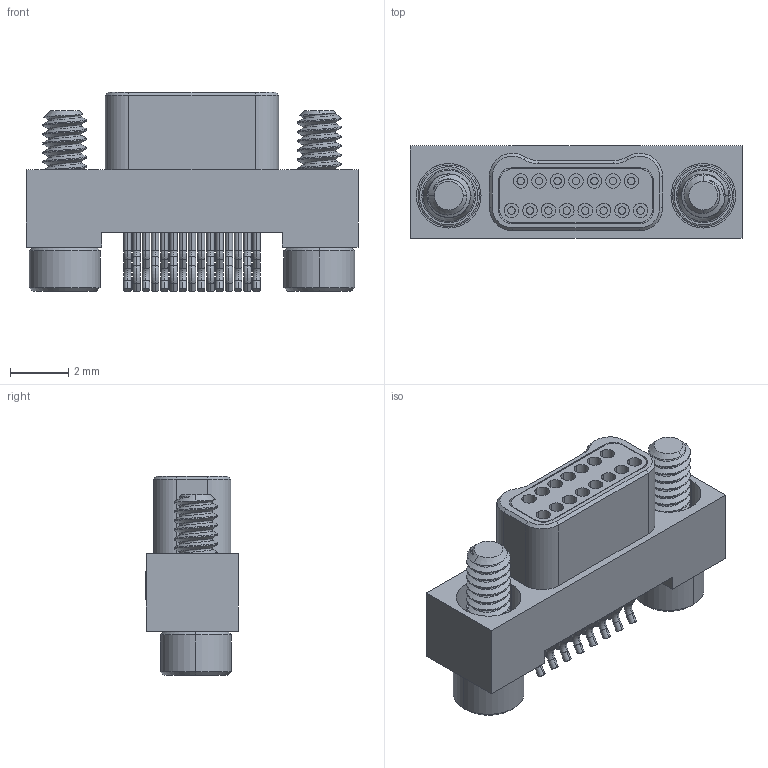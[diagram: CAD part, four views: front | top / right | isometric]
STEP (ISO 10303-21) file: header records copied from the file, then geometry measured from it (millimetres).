
FILE_DESCRIPTION (( 'STEP AP214' ), '1' );
FILE_NAME ('A28300-015 REV H.STEP', '2015-11-04T16:34:13', ( '' ), ( '' ), 'SwSTEP 2.0', 'SolidWorks 2015', '' );
FILE_SCHEMA (( 'AUTOMOTIVE_DESIGN' ));
Length unit declared in the file: inch
Products named in the file (1): A28300-015
Bounding box: 11.43 x 3.19 x 6.87 mm (x, y, z)
Volume: 123.6 mm3; surface area: 561.2 mm2
Topology: 1 solids, 1 shells, 562 faces, 1262 edges, 786 vertices
Faces by surface type: cylinder 252, plane 174, torus 76, cone 38, bspline 22
Entity records: 18870 total; most frequent: CARTESIAN_POINT 6161, DIRECTION 2806, ORIENTED_EDGE 2524, EDGE_CURVE 1262, AXIS2_PLACEMENT_3D 1129, VERTEX_POINT 786, EDGE_LOOP 646, CIRCLE 588
